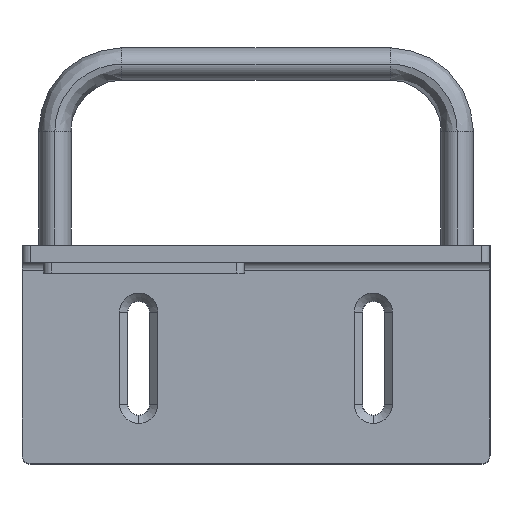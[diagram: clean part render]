
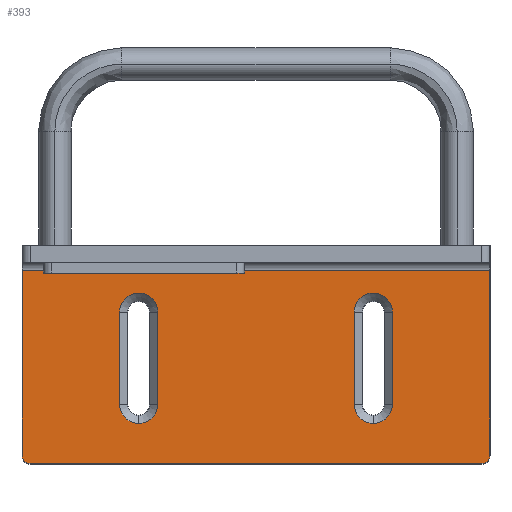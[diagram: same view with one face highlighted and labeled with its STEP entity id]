
A CAD part, left-side view. The second image highlights one B-rep face of the part: STEP entity #393.
In plain terms, the highlighted planar face has unit normal (-1, 0, 0).
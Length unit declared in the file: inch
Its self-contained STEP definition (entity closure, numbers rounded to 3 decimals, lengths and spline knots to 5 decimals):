
#375 = CARTESIAN_POINT ( 'NONE',  ( -0.1285, -0.73232, -1.1875 ) ) ;
#393 = ADVANCED_FACE ( 'NONE', ( #3037, #1236, #1335 ), #3210, .T. ) ;
#512 = CARTESIAN_POINT ( 'NONE',  ( -0.1285, 1.745, -0.1285 ) ) ;
#552 = DIRECTION ( 'NONE',  ( -1., 0., 0. ) ) ;
#686 = EDGE_LOOP ( 'NONE', ( #5891, #10831, #5884, #8488, #10550 ) ) ;
#726 = VECTOR ( 'NONE', #1499, 39.37008 ) ;
#750 = VECTOR ( 'NONE', #3926, 39.37008 ) ;
#812 = ORIENTED_EDGE ( 'NONE', *, *, #4378, .F. ) ;
#848 = DIRECTION ( 'NONE',  ( -1., 0., 0. ) ) ;
#960 = CARTESIAN_POINT ( 'NONE',  ( -0.1285, 1.745, -0.1885 ) ) ;
#1050 = EDGE_CURVE ( 'NONE', #1475, #7949, #9226, .T. ) ;
#1236 = FACE_BOUND ( 'NONE', #686, .T. ) ;
#1262 = ORIENTED_EDGE ( 'NONE', *, *, #9384, .T. ) ;
#1335 = FACE_OUTER_BOUND ( 'NONE', #7570, .T. ) ;
#1370 = VERTEX_POINT ( 'NONE', #7616 ) ;
#1371 = DIRECTION ( 'NONE',  ( 0., 0., -1. ) ) ;
#1375 = ORIENTED_EDGE ( 'NONE', *, *, #7813, .T. ) ;
#1475 = VERTEX_POINT ( 'NONE', #3556 ) ;
#1499 = DIRECTION ( 'NONE',  ( 0., 0., -1. ) ) ;
#1571 = ORIENTED_EDGE ( 'NONE', *, *, #8475, .F. ) ;
#1744 = CIRCLE ( 'NONE', #5810, 0.14268 ) ;
#1976 = VERTEX_POINT ( 'NONE', #9314 ) ;
#1996 = CIRCLE ( 'NONE', #9613, 0.0625 ) ;
#2084 = AXIS2_PLACEMENT_3D ( 'NONE', #6026, #3447, #2446 ) ;
#2252 = LINE ( 'NONE', #6767, #7593 ) ;
#2327 = CARTESIAN_POINT ( 'NONE',  ( -0.1285, -0.875, -0.5 ) ) ;
#2446 = DIRECTION ( 'NONE',  ( 0., 0., -1. ) ) ;
#2560 = VERTEX_POINT ( 'NONE', #8024 ) ;
#2563 = CARTESIAN_POINT ( 'NONE',  ( -0.1285, 1.745, -1.6285 ) ) ;
#2739 = CARTESIAN_POINT ( 'NONE',  ( -0.1285, 0.73232, -0.5 ) ) ;
#2831 = VERTEX_POINT ( 'NONE', #375 ) ;
#2841 = EDGE_CURVE ( 'NONE', #5652, #10480, #3787, .T. ) ;
#2874 = DIRECTION ( 'NONE',  ( 0., 0., -1. ) ) ;
#3037 = FACE_BOUND ( 'NONE', #3393, .T. ) ;
#3113 = DIRECTION ( 'NONE',  ( 0., 0., -1. ) ) ;
#3116 = LINE ( 'NONE', #960, #8934 ) ;
#3210 = PLANE ( 'NONE',  #2084 ) ;
#3215 = DIRECTION ( 'NONE',  ( 0., 0., -1. ) ) ;
#3258 = DIRECTION ( 'NONE',  ( 0., 0., -1. ) ) ;
#3291 = VERTEX_POINT ( 'NONE', #2739 ) ;
#3308 = VERTEX_POINT ( 'NONE', #3730 ) ;
#3389 = VECTOR ( 'NONE', #10305, 39.37008 ) ;
#3393 = EDGE_LOOP ( 'NONE', ( #1262, #1375, #11457, #10652, #5020 ) ) ;
#3447 = DIRECTION ( 'NONE',  ( -1., 0., 0. ) ) ;
#3556 = CARTESIAN_POINT ( 'NONE',  ( -0.1285, -1.01768, -0.5 ) ) ;
#3643 = VERTEX_POINT ( 'NONE', #9436 ) ;
#3730 = CARTESIAN_POINT ( 'NONE',  ( -0.1285, 1.745, -0.1885 ) ) ;
#3787 = CIRCLE ( 'NONE', #8437, 0.14268 ) ;
#3842 = ORIENTED_EDGE ( 'NONE', *, *, #4735, .F. ) ;
#3926 = DIRECTION ( 'NONE',  ( 0., 0., 1. ) ) ;
#3967 = DIRECTION ( 'NONE',  ( 1., 0., 0. ) ) ;
#4024 = EDGE_CURVE ( 'NONE', #10480, #4108, #4931, .T. ) ;
#4044 = CIRCLE ( 'NONE', #4773, 0.14268 ) ;
#4108 = VERTEX_POINT ( 'NONE', #9109 ) ;
#4213 = DIRECTION ( 'NONE',  ( 1., 0., 0. ) ) ;
#4253 = EDGE_CURVE ( 'NONE', #2560, #7821, #7501, .T. ) ;
#4330 = DIRECTION ( 'NONE',  ( 0., 0., -1. ) ) ;
#4378 = EDGE_CURVE ( 'NONE', #7168, #3643, #9543, .T. ) ;
#4477 = CARTESIAN_POINT ( 'NONE',  ( -0.1285, -0.73232, -0.5 ) ) ;
#4671 = EDGE_CURVE ( 'NONE', #3291, #5652, #2252, .T. ) ;
#4717 = DIRECTION ( 'NONE',  ( 1., 0., 0. ) ) ;
#4734 = CARTESIAN_POINT ( 'NONE',  ( -0.1285, 1.745, -1.566 ) ) ;
#4735 = EDGE_CURVE ( 'NONE', #3308, #2560, #3116, .T. ) ;
#4773 = AXIS2_PLACEMENT_3D ( 'NONE', #11144, #11264, #5920 ) ;
#4810 = DIRECTION ( 'NONE',  ( 0., 0., -1. ) ) ;
#4819 = CARTESIAN_POINT ( 'NONE',  ( -0.1285, 0.73232, -1.1875 ) ) ;
#4931 = CIRCLE ( 'NONE', #11469, 0.14268 ) ;
#5020 = ORIENTED_EDGE ( 'NONE', *, *, #4024, .T. ) ;
#5652 = VERTEX_POINT ( 'NONE', #4819 ) ;
#5685 = EDGE_CURVE ( 'NONE', #2831, #1370, #7882, .T. ) ;
#5716 = VECTOR ( 'NONE', #10297, 39.37008 ) ;
#5810 = AXIS2_PLACEMENT_3D ( 'NONE', #2327, #3967, #4810 ) ;
#5884 = ORIENTED_EDGE ( 'NONE', *, *, #1050, .T. ) ;
#5891 = ORIENTED_EDGE ( 'NONE', *, *, #5685, .T. ) ;
#5920 = DIRECTION ( 'NONE',  ( 0., 0., -1. ) ) ;
#6026 = CARTESIAN_POINT ( 'NONE',  ( -0.1285, 0., -0.1285 ) ) ;
#6337 = CIRCLE ( 'NONE', #9173, 0.14268 ) ;
#6444 = VECTOR ( 'NONE', #8691, 39.37008 ) ;
#6504 = ORIENTED_EDGE ( 'NONE', *, *, #4253, .F. ) ;
#6609 = CARTESIAN_POINT ( 'NONE',  ( -0.1285, -1.01768, -1.1875 ) ) ;
#6668 = DIRECTION ( 'NONE',  ( 1., 0., 0. ) ) ;
#6767 = CARTESIAN_POINT ( 'NONE',  ( -0.1285, 0.73232, -1.1875 ) ) ;
#6822 = AXIS2_PLACEMENT_3D ( 'NONE', #8523, #552, #3215 ) ;
#7043 = EDGE_CURVE ( 'NONE', #1370, #1475, #1744, .T. ) ;
#7168 = VERTEX_POINT ( 'NONE', #7490 ) ;
#7469 = CARTESIAN_POINT ( 'NONE',  ( -0.1285, 0.875, -1.1875 ) ) ;
#7474 = ORIENTED_EDGE ( 'NONE', *, *, #7977, .T. ) ;
#7490 = CARTESIAN_POINT ( 'NONE',  ( -0.1285, -1.6825, -1.6285 ) ) ;
#7501 = LINE ( 'NONE', #10121, #726 ) ;
#7570 = EDGE_LOOP ( 'NONE', ( #1571, #7474, #812, #9064, #6504, #3842 ) ) ;
#7575 = CARTESIAN_POINT ( 'NONE',  ( -0.1285, -0.875, -1.1875 ) ) ;
#7593 = VECTOR ( 'NONE', #1371, 39.37008 ) ;
#7601 = EDGE_CURVE ( 'NONE', #1976, #2831, #9207, .T. ) ;
#7616 = CARTESIAN_POINT ( 'NONE',  ( -0.1285, -0.73232, -0.5 ) ) ;
#7639 = LINE ( 'NONE', #11154, #3389 ) ;
#7813 = EDGE_CURVE ( 'NONE', #9662, #3291, #4044, .T. ) ;
#7821 = VERTEX_POINT ( 'NONE', #10348 ) ;
#7882 = LINE ( 'NONE', #4477, #9463 ) ;
#7949 = VERTEX_POINT ( 'NONE', #10917 ) ;
#7977 = EDGE_CURVE ( 'NONE', #9958, #3643, #9827, .T. ) ;
#8024 = CARTESIAN_POINT ( 'NONE',  ( -0.1285, -1.745, -0.1885 ) ) ;
#8075 = DIRECTION ( 'NONE',  ( 0., -1., 0. ) ) ;
#8269 = EDGE_CURVE ( 'NONE', #7168, #7821, #1996, .T. ) ;
#8437 = AXIS2_PLACEMENT_3D ( 'NONE', #9581, #4213, #4330 ) ;
#8475 = EDGE_CURVE ( 'NONE', #9958, #3308, #9294, .T. ) ;
#8488 = ORIENTED_EDGE ( 'NONE', *, *, #9189, .T. ) ;
#8518 = CARTESIAN_POINT ( 'NONE',  ( -0.1285, 0.875, -1.33018 ) ) ;
#8523 = CARTESIAN_POINT ( 'NONE',  ( -0.1285, 1.6825, -1.566 ) ) ;
#8691 = DIRECTION ( 'NONE',  ( 0., 1., 0. ) ) ;
#8772 = DIRECTION ( 'NONE',  ( 0., 0., -1. ) ) ;
#8934 = VECTOR ( 'NONE', #8075, 39.37008 ) ;
#9064 = ORIENTED_EDGE ( 'NONE', *, *, #8269, .T. ) ;
#9109 = CARTESIAN_POINT ( 'NONE',  ( -0.1285, 1.01768, -1.1875 ) ) ;
#9173 = AXIS2_PLACEMENT_3D ( 'NONE', #7575, #4717, #2874 ) ;
#9189 = EDGE_CURVE ( 'NONE', #7949, #1976, #6337, .T. ) ;
#9207 = CIRCLE ( 'NONE', #10997, 0.14268 ) ;
#9226 = LINE ( 'NONE', #6609, #5716 ) ;
#9294 = LINE ( 'NONE', #512, #750 ) ;
#9314 = CARTESIAN_POINT ( 'NONE',  ( -0.1285, -0.875, -1.33018 ) ) ;
#9384 = EDGE_CURVE ( 'NONE', #4108, #9662, #7639, .T. ) ;
#9436 = CARTESIAN_POINT ( 'NONE',  ( -0.1285, 1.6825, -1.6285 ) ) ;
#9463 = VECTOR ( 'NONE', #10526, 39.37008 ) ;
#9543 = LINE ( 'NONE', #2563, #6444 ) ;
#9581 = CARTESIAN_POINT ( 'NONE',  ( -0.1285, 0.875, -1.1875 ) ) ;
#9613 = AXIS2_PLACEMENT_3D ( 'NONE', #10529, #848, #8772 ) ;
#9662 = VERTEX_POINT ( 'NONE', #9793 ) ;
#9793 = CARTESIAN_POINT ( 'NONE',  ( -0.1285, 1.01768, -0.5 ) ) ;
#9827 = CIRCLE ( 'NONE', #6822, 0.0625 ) ;
#9958 = VERTEX_POINT ( 'NONE', #4734 ) ;
#10121 = CARTESIAN_POINT ( 'NONE',  ( -0.1285, -1.745, -1.6285 ) ) ;
#10297 = DIRECTION ( 'NONE',  ( 0., 0., -1. ) ) ;
#10305 = DIRECTION ( 'NONE',  ( 0., 0., 1. ) ) ;
#10348 = CARTESIAN_POINT ( 'NONE',  ( -0.1285, -1.745, -1.566 ) ) ;
#10480 = VERTEX_POINT ( 'NONE', #8518 ) ;
#10526 = DIRECTION ( 'NONE',  ( 0., 0., 1. ) ) ;
#10529 = CARTESIAN_POINT ( 'NONE',  ( -0.1285, -1.6825, -1.566 ) ) ;
#10550 = ORIENTED_EDGE ( 'NONE', *, *, #7601, .T. ) ;
#10652 = ORIENTED_EDGE ( 'NONE', *, *, #2841, .T. ) ;
#10831 = ORIENTED_EDGE ( 'NONE', *, *, #7043, .T. ) ;
#10917 = CARTESIAN_POINT ( 'NONE',  ( -0.1285, -1.01768, -1.1875 ) ) ;
#10997 = AXIS2_PLACEMENT_3D ( 'NONE', #11078, #6668, #3258 ) ;
#11040 = DIRECTION ( 'NONE',  ( 1., 0., 0. ) ) ;
#11078 = CARTESIAN_POINT ( 'NONE',  ( -0.1285, -0.875, -1.1875 ) ) ;
#11144 = CARTESIAN_POINT ( 'NONE',  ( -0.1285, 0.875, -0.5 ) ) ;
#11154 = CARTESIAN_POINT ( 'NONE',  ( -0.1285, 1.01768, -0.5 ) ) ;
#11264 = DIRECTION ( 'NONE',  ( 1., 0., 0. ) ) ;
#11457 = ORIENTED_EDGE ( 'NONE', *, *, #4671, .T. ) ;
#11469 = AXIS2_PLACEMENT_3D ( 'NONE', #7469, #11040, #3113 ) ;
